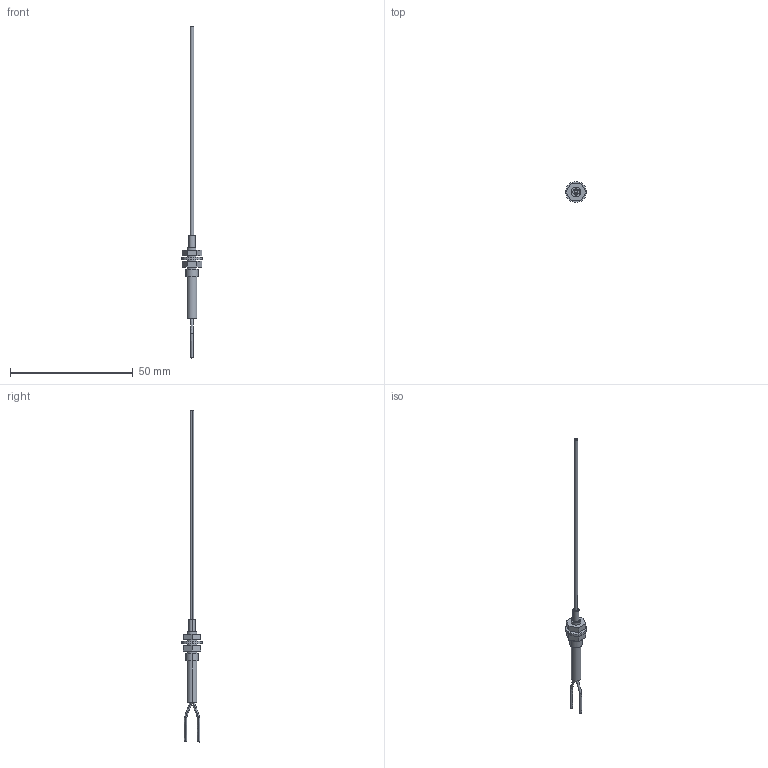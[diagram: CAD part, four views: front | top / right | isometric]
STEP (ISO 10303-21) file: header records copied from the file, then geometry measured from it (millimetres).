
FILE_DESCRIPTION (( 'STEP AP203' ), '1' );
FILE_NAME ('FD-NFM2S.STEP', '2005-09-04T10:09:55', ( '川島良英' ), ( ' ' ), 'SwSTEP 2.0', 'SolidWorks 2004251', '' );
FILE_SCHEMA (( 'CONFIG_CONTROL_DESIGN' ));
Length unit declared in the file: millimetre
Products named in the file (1): FD-NFM2S
Bounding box: 8.5 x 8.5 x 135 mm (x, y, z)
Volume: 759.9 mm3; surface area: 1369.3 mm2
Topology: 4 solids, 4 shells, 55 faces, 118 edges, 77 vertices
Faces by surface type: plane 28, cylinder 19, bspline 8
Entity records: 1883 total; most frequent: CARTESIAN_POINT 617, DIRECTION 238, ORIENTED_EDGE 236, EDGE_CURVE 118, AXIS2_PLACEMENT_3D 86, VERTEX_POINT 77, EDGE_LOOP 67, VECTOR 66
